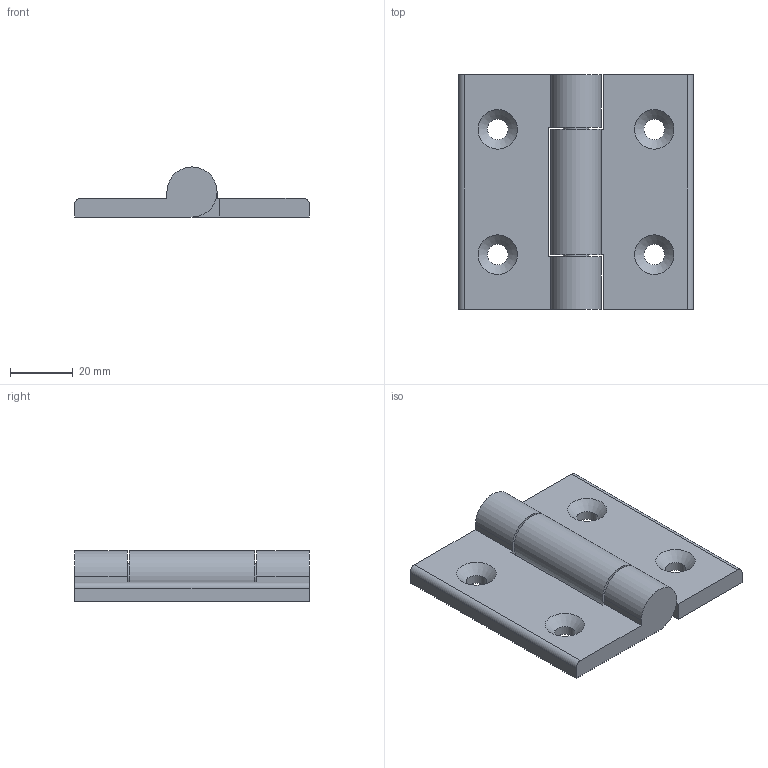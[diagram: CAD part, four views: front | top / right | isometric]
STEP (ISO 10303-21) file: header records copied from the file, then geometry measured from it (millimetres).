
FILE_DESCRIPTION(/* description */ ('STEP AP203'),/* implementation_level */ '2;1');
FILE_NAME(/* name */ 'HHSZ75',/* time_stamp */ '2023-12-22T01:39:05+01:00',/* author */ ('License CC BY-ND 4.0'),/* organization */ ('CADENAS'),/* preprocessor_version */ 'ST-DEVELOPER v19.3',/* originating_system */ 'PARTsolutions',/* authorisation */ ' ');
FILE_SCHEMA (('CONFIG_CONTROL_DESIGN'));
Length unit declared in the file: millimetre
Products named in the file (4): HHSZ75; HHSZ75_b; HHSZ75_c; HHSZ75_a
Assembly tree (3 placements, depth 2):
  HHSZ75
    HHSZ75_b
    HHSZ75_c
    HHSZ75_a
Bounding box: 75 x 75 x 16 mm (x, y, z)
Volume: 40626.5 mm3; surface area: 18928.6 mm2
Topology: 3 solids, 3 shells, 41 faces, 106 edges, 69 vertices
Faces by surface type: plane 20, cylinder 13, cone 4, sphere 4
Full cylindrical faces by diameter (mm): 6.6 x4, 8 x4
Entity records: 1228 total; most frequent: DIRECTION 203, CARTESIAN_POINT 190, ORIENTED_EDGE 166, EDGE_CURVE 83, AXIS2_PLACEMENT_3D 75, EDGE_LOOP 65, FACE_BOUND 65, VERTEX_POINT 62
